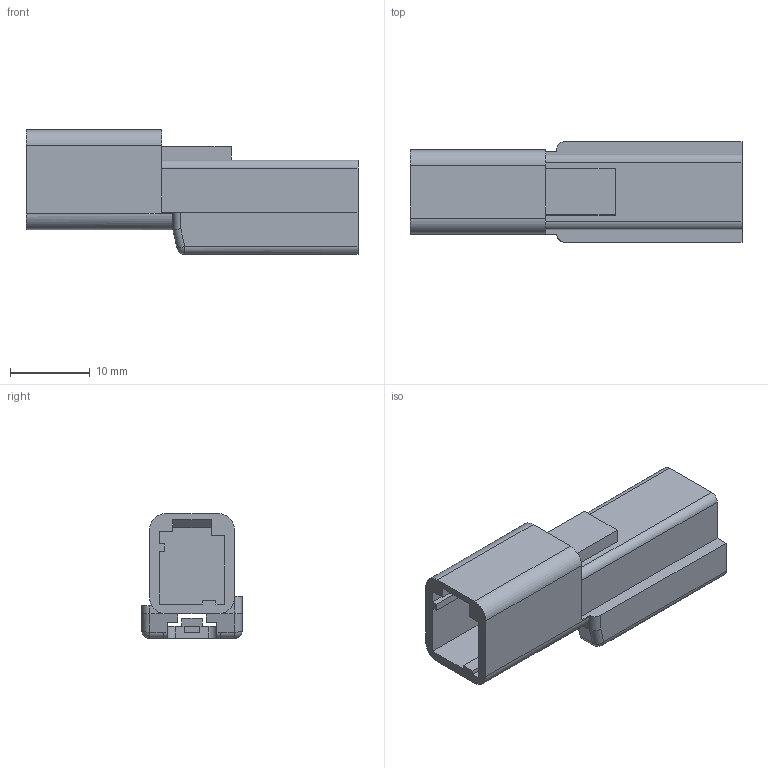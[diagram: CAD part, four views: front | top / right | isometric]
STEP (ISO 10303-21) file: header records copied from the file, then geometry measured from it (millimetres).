
FILE_DESCRIPTION(('CATIA V5 STEP','CAx-IF Rec.Pracs.--- Model Styling and Organization---1.4--- 2014-01-23'),'2;1');
FILE_NAME('\\fs0427\Server\共有情報\コネクタ開発部\特命業務\特ｰ35ｰ部品総合カタログメンテナンス\21年度\掲載用３Dモデル\ETHERNET\ETHERNET３D(トヨタ提出していないものがあるのでチェックしてください）\6910-8309.stp','2023-04-06T00:01:34+00:00',('none'),('none'),'CATIA Version 5-6 Release 2017 SP5 HF58','CATIA V5 STEP AP214','none');
FILE_SCHEMA(('AUTOMOTIVE_DESIGN { 1 0 10303 214 1 1 1 1 }'));
Length unit declared in the file: millimetre
Products named in the file (1): 6910-8309
Bounding box: 41.6 x 12.6 x 15.65 mm (x, y, z)
Volume: 3619.9 mm3; surface area: 3238.4 mm2
Topology: 1 solids, 1 shells, 127 faces, 384 edges, 256 vertices
Faces by surface type: plane 105, cylinder 20, sphere 2
Entity records: 4164 total; most frequent: CARTESIAN_POINT 771, ORIENTED_EDGE 764, DIRECTION 599, EDGE_CURVE 382, VECTOR 333, LINE 333, VERTEX_POINT 256, AXIS2_PLACEMENT_3D 154
